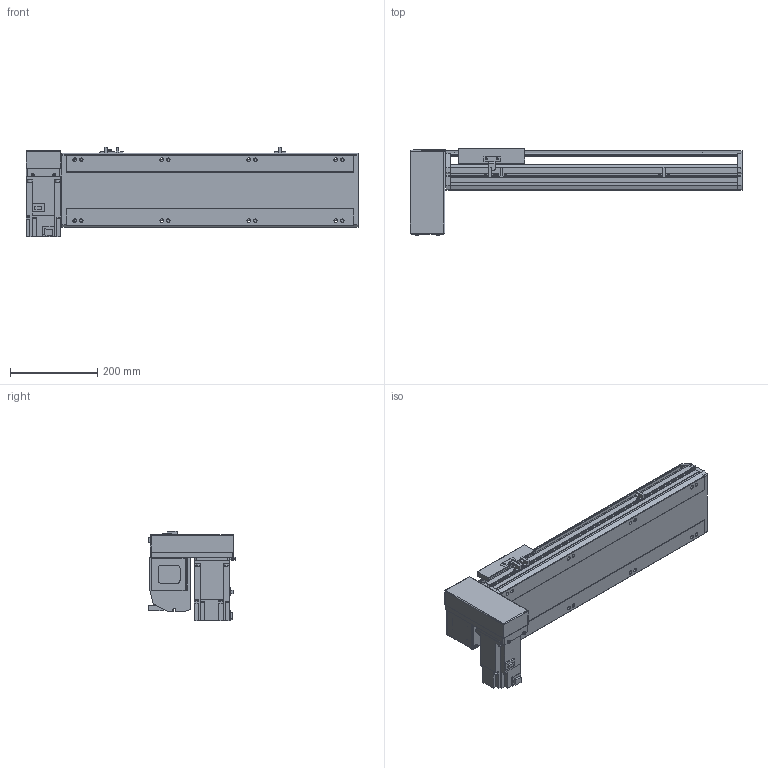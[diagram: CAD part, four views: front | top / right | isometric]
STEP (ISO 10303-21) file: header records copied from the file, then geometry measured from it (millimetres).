
FILE_DESCRIPTION(/* description */ ('STEP AP214'),/* implementation_level */ '2;1');
FILE_NAME(/* name */ 'PBS170-P40-S400-RD-T75-C1-N(0)',/* time_stamp */ '2022-06-08T07:34:19+02:00',/* author */ ('License CC BY-ND 4.0'),/* organization */ ('CADENAS'),/* preprocessor_version */ 'ST-DEVELOPER v18.102',/* originating_system */ 'PARTsolutions',/* authorisation */ ' ');
FILE_SCHEMA (('AUTOMOTIVE_DESIGN {1 0 10303 214 3 1 1}'));
Length unit declared in the file: millimetre
Products named in the file (7): PBS170-P40-S400-RD-T75-C1-N(0); PBS170_sensor; PBS170_plant; PBS170_sliser; T75-p1; PBS170T-RD_motors; PBS170-S400()_body
Assembly tree (8 placements, depth 2):
  PBS170-P40-S400-RD-T75-C1-N(0)
    PBS170_sensor  x3
    PBS170_plant
    PBS170_sliser
    T75-p1
    PBS170T-RD_motors
    PBS170-S400()_body
Bounding box: 763 x 201 x 205.3 mm (x, y, z)
Volume: 6717485.5 mm3; surface area: 923495.1 mm2
Topology: 8 solids, 8 shells, 1018 faces, 2715 edges, 1770 vertices
Faces by surface type: plane 663, cylinder 307, cone 38, sphere 8, torus 2
Full cylindrical faces by diameter (mm): 3.242 x4, 4 x2, 4.4 x4, 4.5 x6, 4.917 x4, 6 x9, 6.647 x16, 7 x2, 7.5 x4, 8 x8, 8.5 x8, 10 x4, 10.5 x8, 11 x2, 30 x2, 40 x1, 70 x1
Entity records: 29286 total; most frequent: CARTESIAN_POINT 5265, DIRECTION 5020, ORIENTED_EDGE 4788, EDGE_CURVE 2394, AXIS2_PLACEMENT_3D 1717, VERTEX_POINT 1634, LINE 1586, VECTOR 1586
